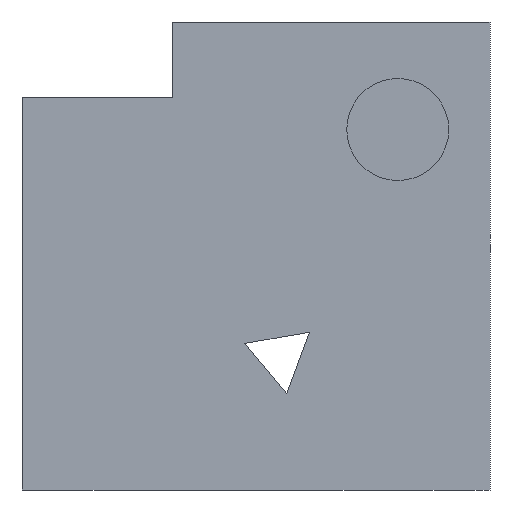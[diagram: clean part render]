
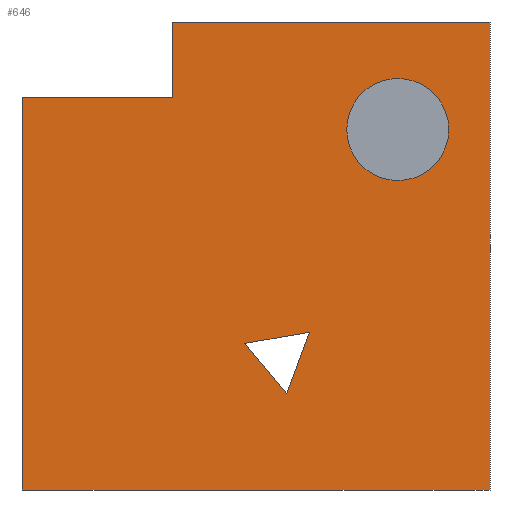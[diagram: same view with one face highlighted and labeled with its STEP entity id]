
A CAD part, front view. The second image highlights one B-rep face of the part: STEP entity #646.
In plain terms, the highlighted planar face has unit normal (0, -1, 0).
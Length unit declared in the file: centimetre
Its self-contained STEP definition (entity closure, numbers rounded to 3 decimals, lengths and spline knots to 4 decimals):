
#6 = VECTOR ( 'NONE', #401, 100. ) ;
#12 = CARTESIAN_POINT ( 'NONE',  ( 0., 0., 0. ) ) ;
#19 = CARTESIAN_POINT ( 'NONE',  ( 322.4535, 0., 839.3075 ) ) ;
#55 = VECTOR ( 'NONE', #328, 100. ) ;
#57 = CARTESIAN_POINT ( 'NONE',  ( 0., 0., 1000. ) ) ;
#67 = DIRECTION ( 'NONE',  ( 0., 0., -1. ) ) ;
#78 = DIRECTION ( 'NONE',  ( 0., 0., 1. ) ) ;
#83 = CARTESIAN_POINT ( 'NONE',  ( 0., 0., 1000. ) ) ;
#87 = VERTEX_POINT ( 'NONE', #462 ) ;
#94 = AXIS2_PLACEMENT_3D ( 'NONE', #57, #982, #745 ) ;
#96 = EDGE_LOOP ( 'NONE', ( #104, #947, #139 ) ) ;
#104 = ORIENTED_EDGE ( 'NONE', *, *, #946, .F. ) ;
#139 = ORIENTED_EDGE ( 'NONE', *, *, #1080, .F. ) ;
#141 = LINE ( 'NONE', #484, #6 ) ;
#145 = CARTESIAN_POINT ( 'NONE',  ( 614.1279, 0., 337.0054 ) ) ;
#173 = EDGE_LOOP ( 'NONE', ( #889, #1109 ) ) ;
#186 = LINE ( 'NONE', #461, #474 ) ;
#190 = LINE ( 'NONE', #12, #628 ) ;
#197 = CARTESIAN_POINT ( 'NONE',  ( 565.5722, 0., 205.4387 ) ) ;
#215 = CARTESIAN_POINT ( 'NONE',  ( 1000., 0., 0. ) ) ;
#231 = VERTEX_POINT ( 'NONE', #215 ) ;
#238 = ORIENTED_EDGE ( 'NONE', *, *, #398, .F. ) ;
#254 = AXIS2_PLACEMENT_3D ( 'NONE', #460, #794, #806 ) ;
#256 = LINE ( 'NONE', #83, #602 ) ;
#262 = CARTESIAN_POINT ( 'NONE',  ( 0., 0., 0. ) ) ;
#264 = DIRECTION ( 'NONE',  ( -0.986, 0., -0.169 ) ) ;
#293 = VECTOR ( 'NONE', #78, 100. ) ;
#321 = EDGE_CURVE ( 'NONE', #544, #519, #1092, .T. ) ;
#328 = DIRECTION ( 'NONE',  ( 0.639, 0., -0.769 ) ) ;
#342 = CARTESIAN_POINT ( 'NONE',  ( 322.4535, 0., 839.3075 ) ) ;
#345 = VECTOR ( 'NONE', #364, 100. ) ;
#360 = EDGE_CURVE ( 'NONE', #863, #410, #256, .T. ) ;
#364 = DIRECTION ( 'NONE',  ( -1., 0., 0. ) ) ;
#388 = VECTOR ( 'NONE', #1037, 100. ) ;
#398 = EDGE_CURVE ( 'NONE', #952, #612, #510, .T. ) ;
#401 = DIRECTION ( 'NONE',  ( 0., 0., -1. ) ) ;
#408 = LINE ( 'NONE', #771, #808 ) ;
#410 = VERTEX_POINT ( 'NONE', #262 ) ;
#460 = CARTESIAN_POINT ( 'NONE',  ( 802.8869, 0., 770.2563 ) ) ;
#461 = CARTESIAN_POINT ( 'NONE',  ( 614.1279, 0., 337.0054 ) ) ;
#462 = CARTESIAN_POINT ( 'NONE',  ( 802.8869, 0., 661.2199 ) ) ;
#474 = VECTOR ( 'NONE', #264, 100. ) ;
#475 = DIRECTION ( 'NONE',  ( 0., 0., -1. ) ) ;
#479 = CARTESIAN_POINT ( 'NONE',  ( 802.8869, 0., 770.2563 ) ) ;
#484 = CARTESIAN_POINT ( 'NONE',  ( 1000., 0., 1000. ) ) ;
#498 = CARTESIAN_POINT ( 'NONE',  ( 475.9099, 0., 313.2725 ) ) ;
#502 = EDGE_CURVE ( 'NONE', #410, #231, #190, .T. ) ;
#505 = CARTESIAN_POINT ( 'NONE',  ( 0., 0., 839.3075 ) ) ;
#510 = LINE ( 'NONE', #853, #293 ) ;
#519 = VERTEX_POINT ( 'NONE', #197 ) ;
#544 = VERTEX_POINT ( 'NONE', #1053 ) ;
#545 = EDGE_CURVE ( 'NONE', #661, #87, #1031, .T. ) ;
#548 = PLANE ( 'NONE',  #94 ) ;
#557 = CARTESIAN_POINT ( 'NONE',  ( 802.8869, 0., 879.2927 ) ) ;
#572 = EDGE_LOOP ( 'NONE', ( #238, #1050, #1020, #598, #901, #879 ) ) ;
#586 = DIRECTION ( 'NONE',  ( 1., 0., 0. ) ) ;
#598 = ORIENTED_EDGE ( 'NONE', *, *, #502, .T. ) ;
#602 = VECTOR ( 'NONE', #67, 100. ) ;
#607 = EDGE_CURVE ( 'NONE', #952, #863, #974, .T. ) ;
#612 = VERTEX_POINT ( 'NONE', #1046 ) ;
#623 = LINE ( 'NONE', #1115, #388 ) ;
#628 = VECTOR ( 'NONE', #706, 100. ) ;
#645 = AXIS2_PLACEMENT_3D ( 'NONE', #479, #903, #475 ) ;
#646 = ADVANCED_FACE ( 'NONE', ( #716, #722, #1061 ), #548, .F. ) ;
#661 = VERTEX_POINT ( 'NONE', #557 ) ;
#691 = EDGE_CURVE ( 'NONE', #87, #661, #1100, .T. ) ;
#706 = DIRECTION ( 'NONE',  ( 1., 0., 0. ) ) ;
#716 = FACE_BOUND ( 'NONE', #173, .T. ) ;
#722 = FACE_BOUND ( 'NONE', #96, .T. ) ;
#745 = DIRECTION ( 'NONE',  ( 0., 0., 1. ) ) ;
#746 = EDGE_CURVE ( 'NONE', #1087, #231, #141, .T. ) ;
#771 = CARTESIAN_POINT ( 'NONE',  ( 0., 0., 1000. ) ) ;
#794 = DIRECTION ( 'NONE',  ( 0., -1., 0. ) ) ;
#798 = EDGE_CURVE ( 'NONE', #612, #1087, #408, .T. ) ;
#806 = DIRECTION ( 'NONE',  ( 0., 0., -1. ) ) ;
#808 = VECTOR ( 'NONE', #586, 100. ) ;
#853 = CARTESIAN_POINT ( 'NONE',  ( 322.4535, 0., 839.3075 ) ) ;
#863 = VERTEX_POINT ( 'NONE', #505 ) ;
#879 = ORIENTED_EDGE ( 'NONE', *, *, #798, .F. ) ;
#889 = ORIENTED_EDGE ( 'NONE', *, *, #691, .F. ) ;
#901 = ORIENTED_EDGE ( 'NONE', *, *, #746, .F. ) ;
#903 = DIRECTION ( 'NONE',  ( 0., -1., 0. ) ) ;
#919 = VERTEX_POINT ( 'NONE', #145 ) ;
#946 = EDGE_CURVE ( 'NONE', #519, #919, #623, .T. ) ;
#947 = ORIENTED_EDGE ( 'NONE', *, *, #321, .F. ) ;
#952 = VERTEX_POINT ( 'NONE', #342 ) ;
#960 = CARTESIAN_POINT ( 'NONE',  ( 1000., 0., 1000. ) ) ;
#974 = LINE ( 'NONE', #19, #345 ) ;
#982 = DIRECTION ( 'NONE',  ( 0., 1., 0. ) ) ;
#1020 = ORIENTED_EDGE ( 'NONE', *, *, #360, .T. ) ;
#1031 = CIRCLE ( 'NONE', #254, 109.0364 ) ;
#1037 = DIRECTION ( 'NONE',  ( 0.346, 0., 0.938 ) ) ;
#1046 = CARTESIAN_POINT ( 'NONE',  ( 322.4535, 0., 1000. ) ) ;
#1050 = ORIENTED_EDGE ( 'NONE', *, *, #607, .T. ) ;
#1053 = CARTESIAN_POINT ( 'NONE',  ( 475.9099, 0., 313.2725 ) ) ;
#1061 = FACE_OUTER_BOUND ( 'NONE', #572, .T. ) ;
#1080 = EDGE_CURVE ( 'NONE', #919, #544, #186, .T. ) ;
#1087 = VERTEX_POINT ( 'NONE', #960 ) ;
#1092 = LINE ( 'NONE', #498, #55 ) ;
#1100 = CIRCLE ( 'NONE', #645, 109.0364 ) ;
#1109 = ORIENTED_EDGE ( 'NONE', *, *, #545, .F. ) ;
#1115 = CARTESIAN_POINT ( 'NONE',  ( 565.5722, 0., 205.4387 ) ) ;
